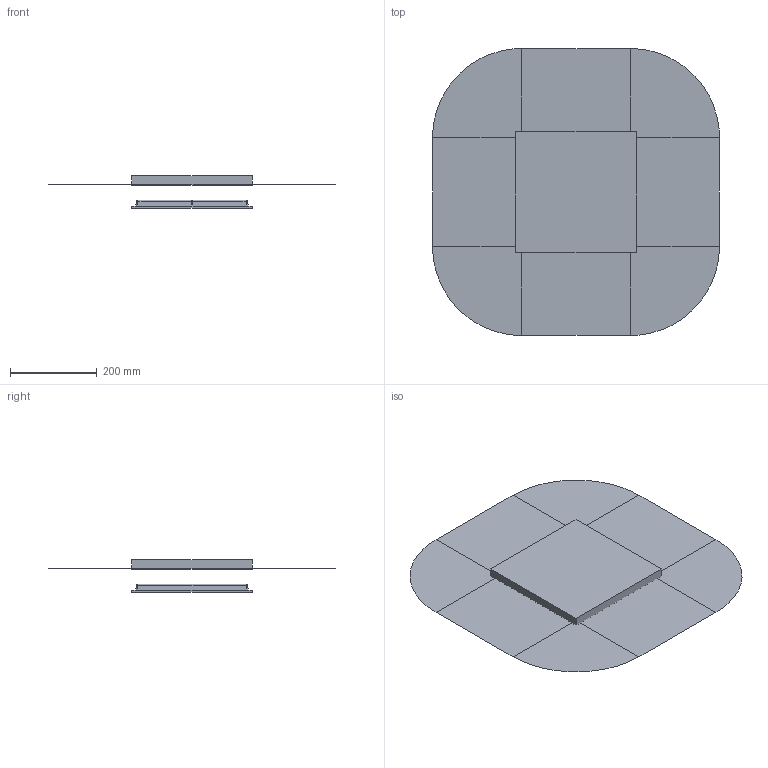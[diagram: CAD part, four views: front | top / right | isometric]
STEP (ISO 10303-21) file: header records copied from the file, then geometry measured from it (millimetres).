
FILE_DESCRIPTION(('CATIA V5 STEP Exchange'),'2;1');
FILE_NAME('C:\Users\andres.garcia\OneDrive - IQS\ASIGNATURAS\DAO\EXF\EXF-22223c\2inicio\Ej05-GARCIA_Andres.stp','2023-02-27T17:11:25+00:00',('none'),('none'),'CATIA Version 5-6 Release 2013 SP6','CATIA V5 STEP AP203','none');
FILE_SCHEMA(('CONFIG_CONTROL_DESIGN'));
Length unit declared in the file: millimetre
Products named in the file (1): Ej05-GARCIA_Andres
Bounding box: 660.62 x 660.62 x 75 mm (x, y, z)
Volume: 3055852 mm3; surface area: 1026398.6 mm2
Topology: 3 solids, 7 shells, 170 faces, 442 edges, 268 vertices
Faces by surface type: plane 88, cylinder 62, sphere 20
Entity records: 3943 total; most frequent: CARTESIAN_POINT 917, ORIENTED_EDGE 800, DIRECTION 442, EDGE_CURVE 284, EDGE_LOOP 181, VERTEX_POINT 180, VECTOR 177, LINE 177
